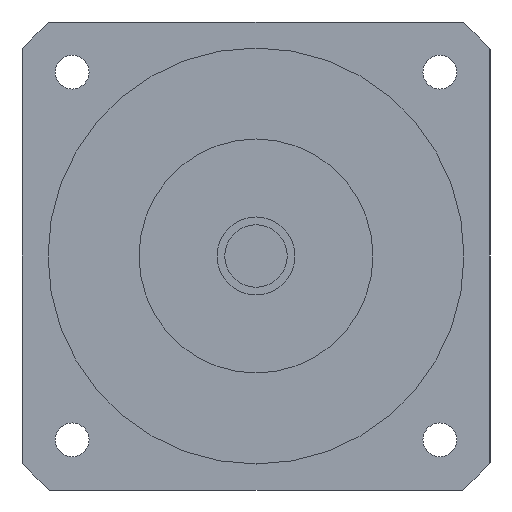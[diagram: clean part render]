
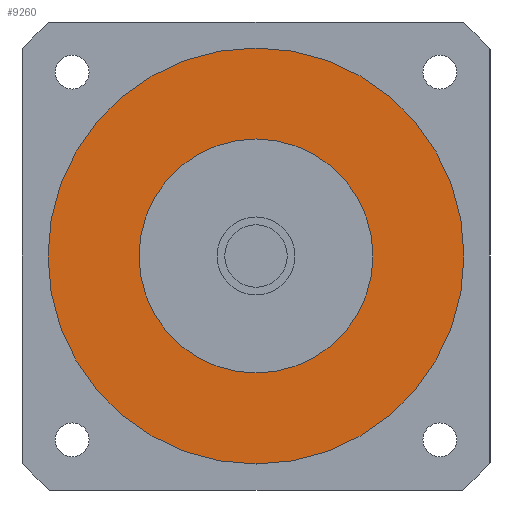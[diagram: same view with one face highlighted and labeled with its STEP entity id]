
A CAD part, left-side view. The second image highlights one B-rep face of the part: STEP entity #9260.
In plain terms, the highlighted planar face has unit normal (-1, 0, 0) as drawn and (0, 0, -1) by its records, which use the part's own axes.
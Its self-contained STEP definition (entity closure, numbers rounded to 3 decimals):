
#8640=CARTESIAN_POINT('',(0.,-22.5,-54.2));
#8650=VERTEX_POINT('',#8640);
#8700=CARTESIAN_POINT('',(0.,0.,
-54.2));
#8710=DIRECTION('',(0.,0.,1.));
#8720=DIRECTION('',(0.,1.,0.));
#8730=AXIS2_PLACEMENT_3D('',#8700,#8710,#8720);
#8740=CIRCLE('',#8730,22.5);
#8750=CARTESIAN_POINT('',(0.,22.5,-54.2));
#8760=VERTEX_POINT('',#8750);
#8770=EDGE_CURVE('',#8650,#8760,#8740,.T.);
#8970=CARTESIAN_POINT('',(0.,0.,
-54.2));
#8980=DIRECTION('',(0.,0.,1.));
#8990=DIRECTION('',(0.,1.,0.));
#9000=AXIS2_PLACEMENT_3D('',#8970,#8980,#8990);
#9010=PLANE('',#9000);
#9020=EDGE_CURVE('',#8760,#8650,#8740,.T.);
#9030=ORIENTED_EDGE('',*,*,#9020,.T.);
#9040=ORIENTED_EDGE('',*,*,#8770,.T.);
#9050=EDGE_LOOP('',(#9040,#9030));
#9060=FACE_BOUND('',#9050,.T.);
#9070=CARTESIAN_POINT('',(0.,0.,
-54.2));
#9080=DIRECTION('',(0.,0.,1.));
#9090=DIRECTION('',(1.,0.,0.));
#9100=AXIS2_PLACEMENT_3D('',#9070,#9080,#9090);
#9110=CIRCLE('',#9100,40.);
#9120=CARTESIAN_POINT('',(40.,0.,-54.2));
#9130=VERTEX_POINT('',#9120);
#9140=CARTESIAN_POINT('',(0.,40.,-54.2));
#9150=VERTEX_POINT('',#9140);
#9160=EDGE_CURVE('',#9130,#9150,#9110,.T.);
#9170=ORIENTED_EDGE('',*,*,#9160,.F.);
#9180=CARTESIAN_POINT('',(0.,-40.,-54.2));
#9190=VERTEX_POINT('',#9180);
#9200=EDGE_CURVE('',#9150,#9190,#9110,.T.);
#9210=ORIENTED_EDGE('',*,*,#9200,.F.);
#9220=EDGE_CURVE('',#9190,#9130,#9110,.T.);
#9230=ORIENTED_EDGE('',*,*,#9220,.F.);
#9240=EDGE_LOOP('',(#9230,#9210,#9170));
#9250=FACE_OUTER_BOUND('',#9240,.T.);
#9260=ADVANCED_FACE('',(#9060,#9250),#9010,.F.);
